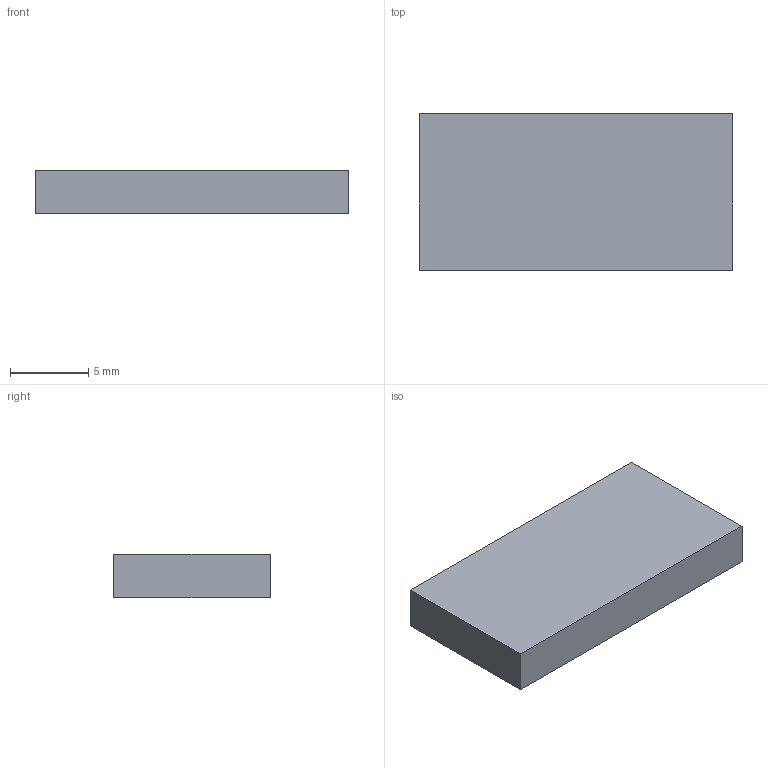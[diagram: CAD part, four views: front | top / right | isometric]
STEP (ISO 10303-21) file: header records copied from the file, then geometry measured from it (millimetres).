
FILE_DESCRIPTION(/* description */ ('STEP AP242 Edition 2','CAx-IF Rec.Pracs.---Representation and Presentation of Product Manufacturing Information (PMI)---4.0---2014-10-13','CAx-IF Rec.Pracs.---3D Tessellated Geometry---0.4---2014-09-14','2;1','CAx-IF Rec.Pracs.---User Defined Attributes---1.5---2016-08-15'),/* implementation_level */ '2;1');
FILE_NAME(/* name */ 'Arm Parts - Connecter',/* time_stamp */ '2026-04-22T00:04:13Z',/* author */ (''),/* organization */ (''),/* preprocessor_version */ 'ST-DEVELOPER v20',/* originating_system */ 'ONSHAPE BY PTC INC, 1.213',/* authorisation */ ' ');
FILE_SCHEMA (('AP242_MANAGED_MODEL_BASED_3D_ENGINEERING_MIM_LF { 1 0 10303 442 3 1 4 }'));
Length unit declared in the file: metre
Products named in the file (1): Connecter
Bounding box: 20 x 10 x 2.8 mm (x, y, z)
Volume: 560 mm3; surface area: 568 mm2
Topology: 1 solids, 1 shells, 6 faces, 12 edges, 8 vertices
Faces by surface type: plane 6
Entity records: 178 total; most frequent: CARTESIAN_POINT 27, DIRECTION 26, ORIENTED_EDGE 24, EDGE_CURVE 12, LINE 12, VECTOR 12, VERTEX_POINT 8, AXIS2_PLACEMENT_3D 7
